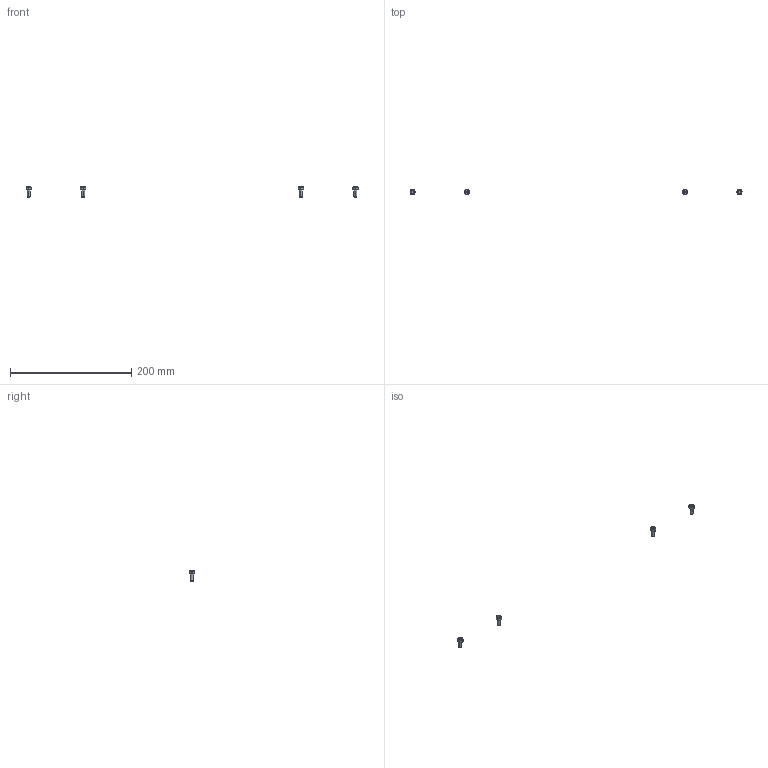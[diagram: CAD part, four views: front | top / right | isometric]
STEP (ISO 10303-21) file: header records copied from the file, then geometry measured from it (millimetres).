
FILE_DESCRIPTION(/* description */ (''),/* implementation_level */ '2;1');
FILE_NAME(/* name */ '13.door-panels#13.3#CB5-12',/* time_stamp */ '2014-12-01T20:19:49+01:00',/* author */ (''),/* organization */ (''),/* preprocessor_version */ 'ST-DEVELOPER v14',/* originating_system */ '',/* authorisation */ '');
FILE_SCHEMA (('AUTOMOTIVE_DESIGN'));
Length unit declared in the file: millimetre
Products named in the file (2): Document; screw DIN912-like, M5x12
Assembly tree (2 placements, depth 2):
  Document
    screw DIN912-like, M5x12  x2
Bounding box: 548.48 x 8.5 x 17 mm (x, y, z)
Volume: 1915.5 mm3; surface area: 1831.5 mm2
Topology: 4 solids, 4 shells, 100 faces, 224 edges, 132 vertices
Faces by surface type: plane 60, bspline 40
Entity records: 4125 total; most frequent: CARTESIAN_POINT 1889, B_SPLINE_CURVE_WITH_KNOTS 378, ORIENTED_EDGE 324, PCURVE 324, DEFINITIONAL_REPRESENTATION 324, SURFACE_CURVE 162, EDGE_CURVE 162, VERTEX_POINT 99
